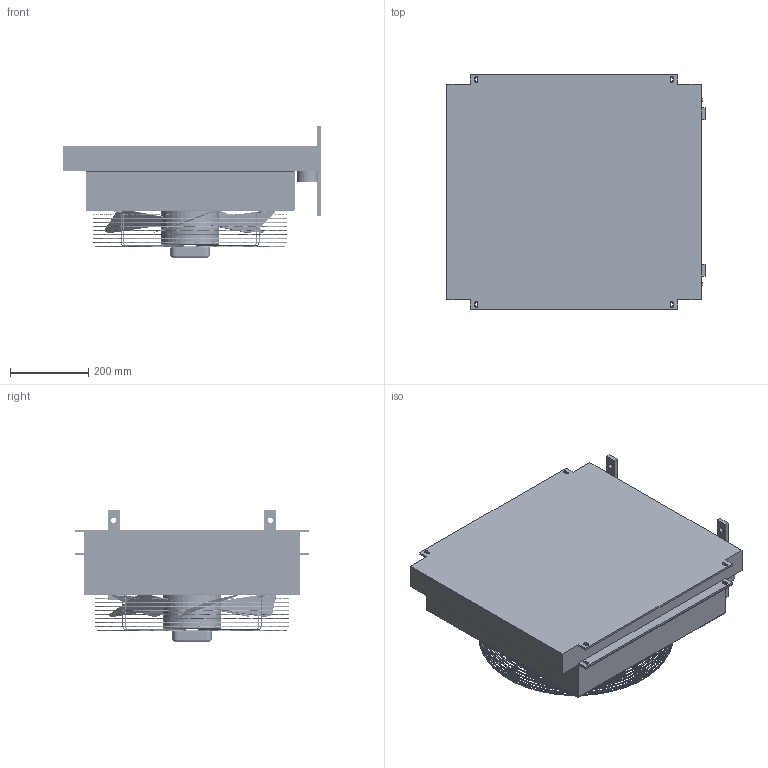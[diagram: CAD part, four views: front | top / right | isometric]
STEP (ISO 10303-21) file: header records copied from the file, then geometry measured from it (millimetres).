
FILE_DESCRIPTION (( 'STEP AP214' ), '1' );
FILE_NAME ('WHE2050 220V.STEP', '2016-01-29T08:06:05', ( '' ), ( '' ), 'SwSTEP 2.0', 'SolidWorks 2016', '' );
FILE_SCHEMA (( 'AUTOMOTIVE_DESIGN' ));
Length unit declared in the file: millimetre
Products named in the file (29): WHE 2050 200V FAN SEPETI_470; WHE 2050 200V FAN SEPETI_430; WHE 2050 200V FAN SEPETI_190; WHE 2050 200V FAN SEPETI_310; WHE 2050 200V FAN SEPETI_410; WHE 2050 200V FAN SEPETI_230; WHE 2050 200V FAN SEPETI_250; WHE 2050 200V FAN SEPETI_270; WHE 2050 200V FAN SEPETI_290; FAN; WHE 2050 200V FAN SEPETI_150; WHE 2050 200V FAN SEPETI_210; WHE 2050 200V FAN SEPETI_450; WHE 2050 200V FAN SEPETI_130; FAN BAGLANTISI; WHE 2050 200V FAN SEPETI_500; WHE2050 220V; WHE 2050 200V FAN SEPETI_110; WHE 2050 200V FAN SEPETI_370; WHE 2050 200V FAN SEPETI_170; WHE 2050 200V FAN SEPETI_90; WHE2050 220V FAN SEPETI; WHE2050 DALLUMBAZ-220V; WHE 2050 200V FAN SEPETI_390; WHE 2050 200V FAN SEPETI_350; WHE 2050 200V FAN SEPETI_330; WHE 2050 FAN SEPETI AYAGI; WHE2050 RADYATOR; WHE 2050 200V FAN SEPETI_490
Assembly tree (38 placements, depth 3):
  WHE2050 220V
    WHE2050 RADYATOR
    WHE2050 DALLUMBAZ-220V
    WHE2050 220V FAN SEPETI
      WHE 2050 200V FAN SEPETI_90
      WHE 2050 200V FAN SEPETI_110
      WHE 2050 200V FAN SEPETI_130
      WHE 2050 200V FAN SEPETI_150
      WHE 2050 200V FAN SEPETI_170
      WHE 2050 200V FAN SEPETI_190
      WHE 2050 200V FAN SEPETI_210
      WHE 2050 200V FAN SEPETI_230
      WHE 2050 200V FAN SEPETI_270
      WHE 2050 200V FAN SEPETI_250
      WHE 2050 200V FAN SEPETI_500  x8
      WHE 2050 FAN SEPETI AYAGI  x4
      WHE 2050 200V FAN SEPETI_310
      WHE 2050 200V FAN SEPETI_290
      WHE 2050 200V FAN SEPETI_330
      WHE 2050 200V FAN SEPETI_350
      WHE 2050 200V FAN SEPETI_410
      WHE 2050 200V FAN SEPETI_370
      WHE 2050 200V FAN SEPETI_390
      WHE 2050 200V FAN SEPETI_430
      WHE 2050 200V FAN SEPETI_490
      WHE 2050 200V FAN SEPETI_450
      WHE 2050 200V FAN SEPETI_470
    FAN BAGLANTISI
    FAN
Bounding box: 660 x 600 x 335 mm (x, y, z)
Volume: 26374565.6 mm3; surface area: 2337250.6 mm2
Topology: 37 solids, 37 shells, 511 faces, 1239 edges, 737 vertices
Faces by surface type: bspline 194, cylinder 154, plane 149, cone 14
Entity records: 18586 total; most frequent: CARTESIAN_POINT 4013, DIRECTION 1973, ORIENTED_EDGE 1894, EDGE_CURVE 947, AXIS2_PLACEMENT_3D 753, VERTEX_POINT 577, UNCERTAINTY_MEASURE_WITH_UNIT 470, VECTOR 467
